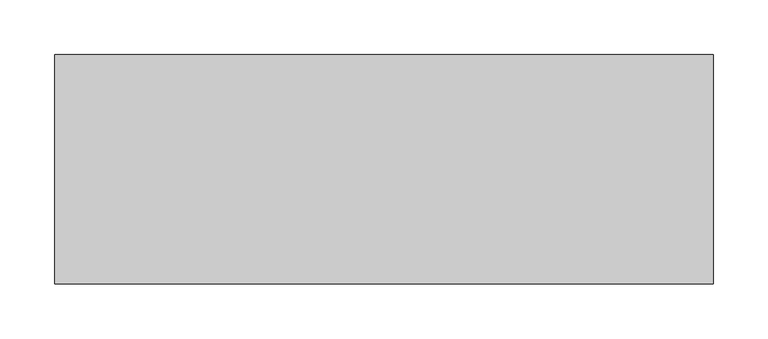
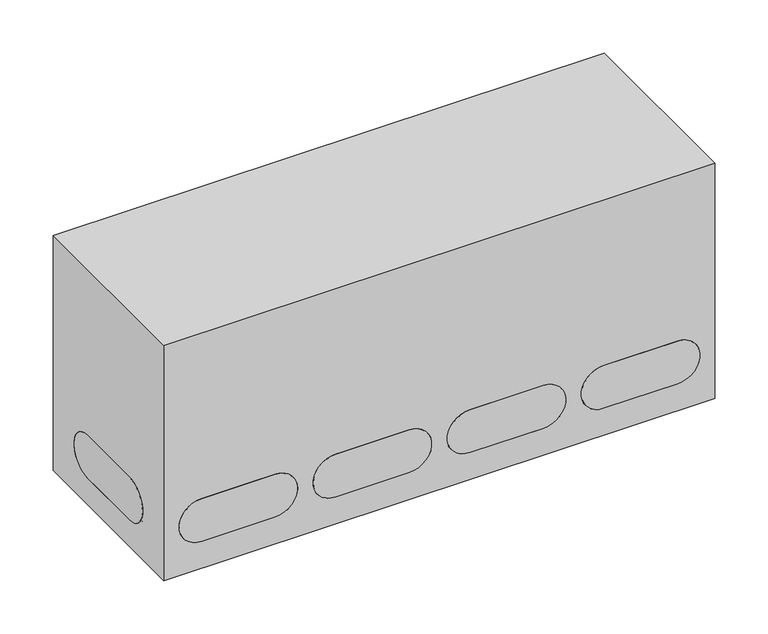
"""IFC4 building model written with IfcOpenShell, lengths in millimetres: duct fitting geometry, NLRS_57_DUF_UN_air distribution manifold oval #14_M&G : 350#14 - DN150 (H=270)."""

from ifc_helpers import new_model, si_unit, point, frame, frame_2d, origin, origin_with_axes, place, context, project, spatial, polyline, circle_curve, trimmed, segment, composite_curve, outline, extrude, source, transform, mapped, element, save
from ifc_brep_helpers import plane_surface, revolved_surface, advanced_brep


def duct_fitting_6cd177ab(model_context):
    return source(origin(), model_context, "Body", "SolidModel", [
        extrude(outline(composite_curve([segment(trimmed(circle_curve(frame_2d((-179.0, 40.0)), 24.5), [point((-179.0, 64.5))], [point((-179.0, 15.5))], False, "CARTESIAN"), True, "CONTINUOUS"), segment(polyline([(-179.0, 15.5), (-259.0, 15.5)]), True, "CONTINUOUS"), segment(trimmed(circle_curve(frame_2d((-259.0, 40.0)), 24.5), [point((-259.0, 15.5))], [point((-259.0, 64.5))], False, "CARTESIAN"), True, "CONTINUOUS"), segment(polyline([(-259.0, 64.5), (-179.0, 64.5)]), True, "CONTINUOUS")], self_intersect=False)), origin_with_axes(), (0.0, 0.0, 1.0), 5.0),
        extrude(outline(composite_curve([segment(trimmed(circle_curve(frame_2d((-179.0, -40.0)), 24.5), [point((-179.0, -15.5))], [point((-179.0, -64.5))], False, "CARTESIAN"), True, "CONTINUOUS"), segment(polyline([(-179.0, -64.5), (-259.0, -64.5)]), True, "CONTINUOUS"), segment(trimmed(circle_curve(frame_2d((-259.0, -40.0)), 24.5), [point((-259.0, -64.5))], [point((-259.0, -15.5))], False, "CARTESIAN"), True, "CONTINUOUS"), segment(polyline([(-259.0, -15.5), (-179.0, -15.5)]), True, "CONTINUOUS")], self_intersect=False)), origin_with_axes(), (0.0, 0.0, 1.0), 5.0),
        extrude(outline(composite_curve([segment(trimmed(circle_curve(frame_2d((-33.0, 40.0)), 24.5), [point((-33.0, 64.5))], [point((-33.0, 15.5))], False, "CARTESIAN"), True, "CONTINUOUS"), segment(polyline([(-33.0, 15.5), (-113.0, 15.5)]), True, "CONTINUOUS"), segment(trimmed(circle_curve(frame_2d((-113.0, 40.0)), 24.5), [point((-113.0, 15.5))], [point((-113.0, 64.5))], False, "CARTESIAN"), True, "CONTINUOUS"), segment(polyline([(-113.0, 64.5), (-33.0, 64.5)]), True, "CONTINUOUS")], self_intersect=False)), origin_with_axes(), (0.0, 0.0, 1.0), 5.0),
        extrude(outline(composite_curve([segment(trimmed(circle_curve(frame_2d((-33.0, -40.0)), 24.5), [point((-33.0, -15.5))], [point((-33.0, -64.5))], False, "CARTESIAN"), True, "CONTINUOUS"), segment(polyline([(-33.0, -64.5), (-113.0, -64.5)]), True, "CONTINUOUS"), segment(trimmed(circle_curve(frame_2d((-113.0, -40.0)), 24.5), [point((-113.0, -64.5))], [point((-113.0, -15.5))], False, "CARTESIAN"), True, "CONTINUOUS"), segment(polyline([(-113.0, -15.5), (-33.0, -15.5)]), True, "CONTINUOUS")], self_intersect=False)), origin_with_axes(), (0.0, 0.0, 1.0), 5.0),
        extrude(outline(composite_curve([segment(trimmed(circle_curve(frame_2d((113.0, 40.0)), 24.5), [point((113.0, 64.5))], [point((113.0, 15.5))], False, "CARTESIAN"), True, "CONTINUOUS"), segment(polyline([(113.0, 15.5), (33.0, 15.5)]), True, "CONTINUOUS"), segment(trimmed(circle_curve(frame_2d((33.0, 40.0)), 24.5), [point((33.0, 15.5))], [point((33.0, 64.5))], False, "CARTESIAN"), True, "CONTINUOUS"), segment(polyline([(33.0, 64.5), (113.0, 64.5)]), True, "CONTINUOUS")], self_intersect=False)), origin_with_axes(), (0.0, 0.0, 1.0), 5.0),
        extrude(outline(composite_curve([segment(trimmed(circle_curve(frame_2d((113.0, -40.0)), 24.5), [point((113.0, -15.5))], [point((113.0, -64.5))], False, "CARTESIAN"), True, "CONTINUOUS"), segment(polyline([(113.0, -64.5), (33.0, -64.5)]), True, "CONTINUOUS"), segment(trimmed(circle_curve(frame_2d((33.0, -40.0)), 24.5), [point((33.0, -64.5))], [point((33.0, -15.5))], False, "CARTESIAN"), True, "CONTINUOUS"), segment(polyline([(33.0, -15.5), (113.0, -15.5)]), True, "CONTINUOUS")], self_intersect=False)), origin_with_axes(), (0.0, 0.0, 1.0), 5.0),
        extrude(outline(composite_curve([segment(trimmed(circle_curve(frame_2d((259.0, 40.0)), 24.5), [point((259.0, 64.5))], [point((259.0, 15.5))], False, "CARTESIAN"), True, "CONTINUOUS"), segment(polyline([(259.0, 15.5), (179.0, 15.5)]), True, "CONTINUOUS"), segment(trimmed(circle_curve(frame_2d((179.0, 40.0)), 24.5), [point((179.0, 15.5))], [point((179.0, 64.5))], False, "CARTESIAN"), True, "CONTINUOUS"), segment(polyline([(179.0, 64.5), (259.0, 64.5)]), True, "CONTINUOUS")], self_intersect=False)), origin_with_axes(), (0.0, 0.0, 1.0), 5.0),
        extrude(outline(composite_curve([segment(trimmed(circle_curve(frame_2d((259.0, -40.0)), 24.5), [point((259.0, -15.5))], [point((259.0, -64.5))], False, "CARTESIAN"), True, "CONTINUOUS"), segment(polyline([(259.0, -64.5), (179.0, -64.5)]), True, "CONTINUOUS"), segment(trimmed(circle_curve(frame_2d((179.0, -40.0)), 24.5), [point((179.0, -64.5))], [point((179.0, -15.5))], False, "CARTESIAN"), True, "CONTINUOUS"), segment(polyline([(179.0, -15.5), (259.0, -15.5)]), True, "CONTINUOUS")], self_intersect=False)), origin_with_axes(), (0.0, 0.0, 1.0), 5.0),
        extrude(outline(composite_curve([segment(polyline([(-40.0, 80.0), (40.0, 80.0)]), True, "CONTINUOUS"), segment(trimmed(circle_curve(frame_2d((40.0, 55.5)), 24.5), [point((40.0, 80.0))], [point((40.0, 31.0))], False, "CARTESIAN"), True, "CONTINUOUS"), segment(polyline([(40.0, 31.0), (-40.0, 31.0)]), True, "CONTINUOUS"), segment(trimmed(circle_curve(frame_2d((-40.0, 55.5)), 24.5), [point((-40.0, 31.0))], [point((-40.0, 80.0))], False, "CARTESIAN"), True, "CONTINUOUS")], self_intersect=False)), frame((-300.0, 0.0, 0.0), z_axis=(1.0, 0.0, 0.0), x_axis=(0.0, 1.0, 0.0)), (0.0, 0.0, 1.0), 5.0),
        extrude(outline(composite_curve([segment(polyline([(80.0, -179.0), (80.0, -259.0)]), True, "CONTINUOUS"), segment(trimmed(circle_curve(frame_2d((55.5, -259.0)), 24.5), [point((80.0, -259.0))], [point((31.0, -259.0))], False, "CARTESIAN"), True, "CONTINUOUS"), segment(polyline([(31.0, -259.0), (31.0, -179.0)]), True, "CONTINUOUS"), segment(trimmed(circle_curve(frame_2d((55.5, -179.0)), 24.5), [point((31.0, -179.0))], [point((80.0, -179.0))], False, "CARTESIAN"), True, "CONTINUOUS")], self_intersect=False)), frame((0.0, -104.5, 0.0), z_axis=(0.0, 1.0, 0.0), x_axis=(0.0, 0.0, 1.0)), (0.0, 0.0, 1.0), 5.0),
        extrude(outline(composite_curve([segment(polyline([(80.0, -33.0), (80.0, -113.0)]), True, "CONTINUOUS"), segment(trimmed(circle_curve(frame_2d((55.5, -113.0)), 24.5), [point((80.0, -113.0))], [point((31.0, -113.0))], False, "CARTESIAN"), True, "CONTINUOUS"), segment(polyline([(31.0, -113.0), (31.0, -33.0)]), True, "CONTINUOUS"), segment(trimmed(circle_curve(frame_2d((55.5, -33.0)), 24.5), [point((31.0, -33.0))], [point((80.0, -33.0))], False, "CARTESIAN"), True, "CONTINUOUS")], self_intersect=False)), frame((0.0, -104.5, 0.0), z_axis=(0.0, 1.0, 0.0), x_axis=(0.0, 0.0, 1.0)), (0.0, 0.0, 1.0), 5.0),
        extrude(outline(composite_curve([segment(polyline([(80.0, 113.0), (80.0, 33.0)]), True, "CONTINUOUS"), segment(trimmed(circle_curve(frame_2d((55.5, 33.0)), 24.5), [point((80.0, 33.0))], [point((31.0, 33.0))], False, "CARTESIAN"), True, "CONTINUOUS"), segment(polyline([(31.0, 33.0), (31.0, 113.0)]), True, "CONTINUOUS"), segment(trimmed(circle_curve(frame_2d((55.5, 113.0)), 24.5), [point((31.0, 113.0))], [point((80.0, 113.0))], False, "CARTESIAN"), True, "CONTINUOUS")], self_intersect=False)), frame((0.0, -104.5, 0.0), z_axis=(0.0, 1.0, 0.0), x_axis=(0.0, 0.0, 1.0)), (0.0, 0.0, 1.0), 5.0),
        extrude(outline(composite_curve([segment(polyline([(80.0, 259.0), (80.0, 179.0)]), True, "CONTINUOUS"), segment(trimmed(circle_curve(frame_2d((55.5, 179.0)), 24.5), [point((80.0, 179.0))], [point((31.0, 179.0))], False, "CARTESIAN"), True, "CONTINUOUS"), segment(polyline([(31.0, 179.0), (31.0, 259.0)]), True, "CONTINUOUS"), segment(trimmed(circle_curve(frame_2d((55.5, 259.0)), 24.5), [point((31.0, 259.0))], [point((80.0, 259.0))], False, "CARTESIAN"), True, "CONTINUOUS")], self_intersect=False)), frame((0.0, -104.5, 0.0), z_axis=(0.0, 1.0, 0.0), x_axis=(0.0, 0.0, 1.0)), (0.0, 0.0, 1.0), 5.0),
        extrude(outline(composite_curve([segment(polyline([(-40.0, 80.0), (40.0, 80.0)]), True, "CONTINUOUS"), segment(trimmed(circle_curve(frame_2d((40.0, 55.5)), 24.5), [point((40.0, 80.0))], [point((40.0, 31.0))], False, "CARTESIAN"), True, "CONTINUOUS"), segment(polyline([(40.0, 31.0), (-40.0, 31.0)]), True, "CONTINUOUS"), segment(trimmed(circle_curve(frame_2d((-40.0, 55.5)), 24.5), [point((-40.0, 31.0))], [point((-40.0, 80.0))], False, "CARTESIAN"), True, "CONTINUOUS")], self_intersect=False)), frame((295.0, 0.0, 0.0), z_axis=(1.0, 0.0, 0.0), x_axis=(0.0, 1.0, 0.0)), (0.0, 0.0, 1.0), 5.0),
        advanced_brep(
        [(300.0, 104.5, 271.0), (-300.0, 104.5, 271.0), (-300.0, -104.5, 271.0), (300.0, -104.5, 271.0), (300.0, 104.5, 0.0), (300.0, -104.5, 0.0), (-300.0, -104.5, 0.0), (-300.0, 104.5, 0.0), (-179.0, 64.5, 0.0), (-259.0, 64.5, 0.0), (-259.0, 15.5, 0.0), (-179.0, 15.5, 0.0), (-179.0, -15.5, 0.0), (-259.0, -15.5, 0.0), (-259.0, -64.5, 0.0), (-179.0, -64.5, 0.0), (-33.0, 64.5, 0.0), (-113.0, 64.5, 0.0), (-113.0, 15.5, 0.0), (-33.0, 15.5, 0.0), (-33.0, -15.5, 0.0), (-113.0, -15.5, 0.0), (-113.0, -64.5, 0.0), (-33.0, -64.5, 0.0), (113.0, 64.5, 0.0), (33.0, 64.5, 0.0), (33.0, 15.5, 0.0), (113.0, 15.5, 0.0), (113.0, -15.5, 0.0), (33.0, -15.5, 0.0), (33.0, -64.5, 0.0), (113.0, -64.5, 0.0), (259.0, 64.5, 0.0), (179.0, 64.5, 0.0), (179.0, 15.5, 0.0), (259.0, 15.5, 0.0), (259.0, -15.5, 0.0), (179.0, -15.5, 0.0), (179.0, -64.5, 0.0), (259.0, -64.5, 0.0), (-300.0, 40.0, 80.0), (-300.0, -40.0, 80.0), (-300.0, -40.0, 31.0), (-300.0, 40.0, 31.0), (-259.0, -104.5, 80.0), (-179.0, -104.5, 80.0), (-179.0, -104.5, 31.0), (-259.0, -104.5, 31.0), (-113.0, -104.5, 80.0), (-33.0, -104.5, 80.0), (-33.0, -104.5, 31.0), (-113.0, -104.5, 31.0), (33.0, -104.5, 80.0), (113.0, -104.5, 80.0), (113.0, -104.5, 31.0), (33.0, -104.5, 31.0), (179.0, -104.5, 80.0), (259.0, -104.5, 80.0), (259.0, -104.5, 31.0), (179.0, -104.5, 31.0), (300.0, -40.0, 80.0), (300.0, 40.0, 80.0), (300.0, 40.0, 31.0), (300.0, -40.0, 31.0), (-179.0, 64.5, 5.0), (-179.0, 15.5, 5.0), (-259.0, 15.5, 5.0), (-259.0, 64.5, 5.0), (-179.0, -15.5, 5.0), (-179.0, -64.5, 5.0), (-259.0, -64.5, 5.0), (-259.0, -15.5, 5.0), (-33.0, 64.5, 5.0), (-33.0, 15.5, 5.0), (-113.0, 15.5, 5.0), (-113.0, 64.5, 5.0), (-33.0, -15.5, 5.0), (-33.0, -64.5, 5.0), (-113.0, -64.5, 5.0), (-113.0, -15.5, 5.0), (113.0, 64.5, 5.0), (113.0, 15.5, 5.0), (33.0, 15.5, 5.0), (33.0, 64.5, 5.0), (113.0, -15.5, 5.0), (113.0, -64.5, 5.0), (33.0, -64.5, 5.0), (33.0, -15.5, 5.0), (259.0, 64.5, 5.0), (259.0, 15.5, 5.0), (179.0, 15.5, 5.0), (179.0, 64.5, 5.0), (259.0, -15.5, 5.0), (259.0, -64.5, 5.0), (179.0, -64.5, 5.0), (179.0, -15.5, 5.0), (-179.0, -99.5, 80.0), (-259.0, -99.5, 80.0), (-259.0, -99.5, 31.0), (-179.0, -99.5, 31.0), (-33.0, -99.5, 80.0), (-113.0, -99.5, 80.0), (-113.0, -99.5, 31.0), (-33.0, -99.5, 31.0), (113.0, -99.5, 80.0), (33.0, -99.5, 80.0), (33.0, -99.5, 31.0), (113.0, -99.5, 31.0), (259.0, -99.5, 80.0), (179.0, -99.5, 80.0), (179.0, -99.5, 31.0), (259.0, -99.5, 31.0), (294.0, -40.0, 80.0), (294.0, 40.0, 80.0), (294.0, 40.0, 31.0), (294.0, -40.0, 31.0), (-294.0, -40.0, 80.0), (-294.0, 40.0, 80.0), (-294.0, 40.0, 31.0), (-294.0, -40.0, 31.0)],
        [
            (0, 1),
            (1, 2),
            (2, 3),
            (3, 0),
            (4, 5),
            (5, 6),
            (6, 7),
            (7, 4),
            (8, 9),
            (9, 10, circle_curve(frame((-259.0, 40.0, 0.0), z_axis=(0.0, 0.0, 1.0), x_axis=(1.0, 0.0, 0.0)), 24.5)),
            (10, 11),
            (11, 8, circle_curve(frame((-179.0, 40.0, 0.0), z_axis=(0.0, 0.0, 1.0), x_axis=(1.0, 0.0, 0.0)), 24.5)),
            (12, 13),
            (13, 14, circle_curve(frame((-259.0, -40.0, 0.0), z_axis=(0.0, 0.0, 1.0), x_axis=(1.0, 0.0, 0.0)), 24.5)),
            (14, 15),
            (15, 12, circle_curve(frame((-179.0, -40.0, 0.0), z_axis=(0.0, 0.0, 1.0), x_axis=(1.0, 0.0, 0.0)), 24.5)),
            (16, 17),
            (17, 18, circle_curve(frame((-113.0, 40.0, 0.0), z_axis=(0.0, 0.0, 1.0), x_axis=(1.0, 0.0, 0.0)), 24.5)),
            (18, 19),
            (19, 16, circle_curve(frame((-33.0, 40.0, 0.0), z_axis=(0.0, 0.0, 1.0), x_axis=(1.0, 0.0, 0.0)), 24.5)),
            (20, 21),
            (21, 22, circle_curve(frame((-113.0, -40.0, 0.0), z_axis=(0.0, 0.0, 1.0), x_axis=(1.0, 0.0, 0.0)), 24.5)),
            (22, 23),
            (23, 20, circle_curve(frame((-33.0, -40.0, 0.0), z_axis=(0.0, 0.0, 1.0), x_axis=(1.0, 0.0, 0.0)), 24.5)),
            (24, 25),
            (25, 26, circle_curve(frame((33.0, 40.0, 0.0), z_axis=(0.0, 0.0, 1.0), x_axis=(1.0, 0.0, 0.0)), 24.5)),
            (26, 27),
            (27, 24, circle_curve(frame((113.0, 40.0, 0.0), z_axis=(0.0, 0.0, 1.0), x_axis=(1.0, 0.0, 0.0)), 24.5)),
            (28, 29),
            (29, 30, circle_curve(frame((33.0, -40.0, 0.0), z_axis=(0.0, 0.0, 1.0), x_axis=(1.0, 0.0, 0.0)), 24.5)),
            (30, 31),
            (31, 28, circle_curve(frame((113.0, -40.0, 0.0), z_axis=(0.0, 0.0, 1.0), x_axis=(1.0, 0.0, 0.0)), 24.5)),
            (32, 33),
            (33, 34, circle_curve(frame((179.0, 40.0, 0.0), z_axis=(0.0, 0.0, 1.0), x_axis=(1.0, 0.0, 0.0)), 24.5)),
            (34, 35),
            (35, 32, circle_curve(frame((259.0, 40.0, 0.0), z_axis=(0.0, 0.0, 1.0), x_axis=(1.0, 0.0, 0.0)), 24.5)),
            (36, 37),
            (37, 38, circle_curve(frame((179.0, -40.0, 0.0), z_axis=(0.0, 0.0, 1.0), x_axis=(1.0, 0.0, 0.0)), 24.5)),
            (38, 39),
            (39, 36, circle_curve(frame((259.0, -40.0, 0.0), z_axis=(0.0, 0.0, 1.0), x_axis=(1.0, 0.0, 0.0)), 24.5)),
            (0, 4),
            (7, 1),
            (6, 2),
            (40, 41),
            (41, 42, circle_curve(frame((-300.0, -40.0, 55.5), z_axis=(1.0, 0.0, 0.0), x_axis=(0.0, 1.0, 0.0)), 24.5)),
            (42, 43),
            (43, 40, circle_curve(frame((-300.0, 40.0, 55.5), z_axis=(1.0, 0.0, 0.0), x_axis=(0.0, 1.0, 0.0)), 24.5)),
            (5, 3),
            (44, 45),
            (45, 46, circle_curve(frame((-179.0, -104.5, 55.5), z_axis=(0.0, 1.0, 0.0), x_axis=(-1.0, 0.0, 0.0)), 24.5)),
            (46, 47),
            (47, 44, circle_curve(frame((-259.0, -104.5, 55.5), z_axis=(0.0, 1.0, 0.0), x_axis=(-1.0, 0.0, 0.0)), 24.5)),
            (48, 49),
            (49, 50, circle_curve(frame((-33.0, -104.5, 55.5), z_axis=(0.0, 1.0, 0.0), x_axis=(-1.0, 0.0, 0.0)), 24.5)),
            (50, 51),
            (51, 48, circle_curve(frame((-113.0, -104.5, 55.5), z_axis=(0.0, 1.0, 0.0), x_axis=(-1.0, 0.0, 0.0)), 24.5)),
            (52, 53),
            (53, 54, circle_curve(frame((113.0, -104.5, 55.5), z_axis=(0.0, 1.0, 0.0), x_axis=(-1.0, 0.0, 0.0)), 24.5)),
            (54, 55),
            (55, 52, circle_curve(frame((33.0, -104.5, 55.5), z_axis=(0.0, 1.0, 0.0), x_axis=(-1.0, 0.0, 0.0)), 24.5)),
            (56, 57),
            (57, 58, circle_curve(frame((259.0, -104.5, 55.5), z_axis=(0.0, 1.0, 0.0), x_axis=(-1.0, 0.0, 0.0)), 24.5)),
            (58, 59),
            (59, 56, circle_curve(frame((179.0, -104.5, 55.5), z_axis=(0.0, 1.0, 0.0), x_axis=(-1.0, 0.0, 0.0)), 24.5)),
            (60, 61),
            (61, 62, circle_curve(frame((300.0, 40.0, 55.5), z_axis=(-1.0, 0.0, 0.0), x_axis=(0.0, -1.0, 0.0)), 24.5)),
            (62, 63),
            (63, 60, circle_curve(frame((300.0, -40.0, 55.5), z_axis=(-1.0, 0.0, 0.0), x_axis=(0.0, -1.0, 0.0)), 24.5)),
            (64, 65, circle_curve(frame((-179.0, 40.0, 5.0), z_axis=(0.0, 0.0, -1.0), x_axis=(1.0, 0.0, 0.0)), 24.5)),
            (65, 66),
            (66, 67, circle_curve(frame((-259.0, 40.0, 5.0), z_axis=(0.0, 0.0, -1.0), x_axis=(1.0, 0.0, 0.0)), 24.5)),
            (67, 64),
            (68, 69, circle_curve(frame((-179.0, -40.0, 5.0), z_axis=(0.0, 0.0, -1.0), x_axis=(1.0, 0.0, 0.0)), 24.5)),
            (69, 70),
            (70, 71, circle_curve(frame((-259.0, -40.0, 5.0), z_axis=(0.0, 0.0, -1.0), x_axis=(1.0, 0.0, 0.0)), 24.5)),
            (71, 68),
            (72, 73, circle_curve(frame((-33.0, 40.0, 5.0), z_axis=(0.0, 0.0, -1.0), x_axis=(1.0, 0.0, 0.0)), 24.5)),
            (73, 74),
            (74, 75, circle_curve(frame((-113.0, 40.0, 5.0), z_axis=(0.0, 0.0, -1.0), x_axis=(1.0, 0.0, 0.0)), 24.5)),
            (75, 72),
            (76, 77, circle_curve(frame((-33.0, -40.0, 5.0), z_axis=(0.0, 0.0, -1.0), x_axis=(1.0, 0.0, 0.0)), 24.5)),
            (77, 78),
            (78, 79, circle_curve(frame((-113.0, -40.0, 5.0), z_axis=(0.0, 0.0, -1.0), x_axis=(1.0, 0.0, 0.0)), 24.5)),
            (79, 76),
            (80, 81, circle_curve(frame((113.0, 40.0, 5.0), z_axis=(0.0, 0.0, -1.0), x_axis=(1.0, 0.0, 0.0)), 24.5)),
            (81, 82),
            (82, 83, circle_curve(frame((33.0, 40.0, 5.0), z_axis=(0.0, 0.0, -1.0), x_axis=(1.0, 0.0, 0.0)), 24.5)),
            (83, 80),
            (84, 85, circle_curve(frame((113.0, -40.0, 5.0), z_axis=(0.0, 0.0, -1.0), x_axis=(1.0, 0.0, 0.0)), 24.5)),
            (85, 86),
            (86, 87, circle_curve(frame((33.0, -40.0, 5.0), z_axis=(0.0, 0.0, -1.0), x_axis=(1.0, 0.0, 0.0)), 24.5)),
            (87, 84),
            (88, 89, circle_curve(frame((259.0, 40.0, 5.0), z_axis=(0.0, 0.0, -1.0), x_axis=(1.0, 0.0, 0.0)), 24.5)),
            (89, 90),
            (90, 91, circle_curve(frame((179.0, 40.0, 5.0), z_axis=(0.0, 0.0, -1.0), x_axis=(1.0, 0.0, 0.0)), 24.5)),
            (91, 88),
            (92, 93, circle_curve(frame((259.0, -40.0, 5.0), z_axis=(0.0, 0.0, -1.0), x_axis=(1.0, 0.0, 0.0)), 24.5)),
            (93, 94),
            (94, 95, circle_curve(frame((179.0, -40.0, 5.0), z_axis=(0.0, 0.0, -1.0), x_axis=(1.0, 0.0, 0.0)), 24.5)),
            (95, 92),
            (67, 9),
            (8, 64),
            (66, 10),
            (65, 11),
            (71, 13),
            (12, 68),
            (70, 14),
            (69, 15),
            (75, 17),
            (16, 72),
            (74, 18),
            (73, 19),
            (79, 21),
            (20, 76),
            (78, 22),
            (77, 23),
            (83, 25),
            (24, 80),
            (82, 26),
            (81, 27),
            (87, 29),
            (28, 84),
            (86, 30),
            (85, 31),
            (91, 33),
            (32, 88),
            (90, 34),
            (89, 35),
            (95, 37),
            (36, 92),
            (94, 38),
            (93, 39),
            (96, 97),
            (97, 98, circle_curve(frame((-259.0, -99.5, 55.5), z_axis=(0.0, -1.0, 0.0), x_axis=(-1.0, 0.0, 0.0)), 24.5)),
            (98, 99),
            (99, 96, circle_curve(frame((-179.0, -99.5, 55.5), z_axis=(0.0, -1.0, 0.0), x_axis=(-1.0, 0.0, 0.0)), 24.5)),
            (100, 101),
            (101, 102, circle_curve(frame((-113.0, -99.5, 55.5), z_axis=(0.0, -1.0, 0.0), x_axis=(-1.0, 0.0, 0.0)), 24.5)),
            (102, 103),
            (103, 100, circle_curve(frame((-33.0, -99.5, 55.5), z_axis=(0.0, -1.0, 0.0), x_axis=(-1.0, 0.0, 0.0)), 24.5)),
            (104, 105),
            (105, 106, circle_curve(frame((33.0, -99.5, 55.5), z_axis=(0.0, -1.0, 0.0), x_axis=(-1.0, 0.0, 0.0)), 24.5)),
            (106, 107),
            (107, 104, circle_curve(frame((113.0, -99.5, 55.5), z_axis=(0.0, -1.0, 0.0), x_axis=(-1.0, 0.0, 0.0)), 24.5)),
            (108, 109),
            (109, 110, circle_curve(frame((179.0, -99.5, 55.5), z_axis=(0.0, -1.0, 0.0), x_axis=(-1.0, 0.0, 0.0)), 24.5)),
            (110, 111),
            (111, 108, circle_curve(frame((259.0, -99.5, 55.5), z_axis=(0.0, -1.0, 0.0), x_axis=(-1.0, 0.0, 0.0)), 24.5)),
            (96, 45),
            (44, 97),
            (47, 98),
            (46, 99),
            (100, 49),
            (48, 101),
            (51, 102),
            (50, 103),
            (104, 53),
            (52, 105),
            (55, 106),
            (54, 107),
            (108, 57),
            (56, 109),
            (59, 110),
            (58, 111),
            (112, 113),
            (113, 61),
            (60, 112),
            (113, 114, circle_curve(frame((294.0, 40.0, 55.5), z_axis=(-1.0, 0.0, 0.0), x_axis=(0.0, -1.0, 0.0)), 24.5)),
            (114, 62),
            (114, 115),
            (115, 63),
            (115, 112, circle_curve(frame((294.0, -40.0, 55.5), z_axis=(-1.0, 0.0, 0.0), x_axis=(0.0, -1.0, 0.0)), 24.5)),
            (116, 117),
            (117, 118, circle_curve(frame((-294.0, 40.0, 55.5), z_axis=(-1.0, 0.0, 0.0), x_axis=(0.0, 1.0, 0.0)), 24.5)),
            (118, 119),
            (119, 116, circle_curve(frame((-294.0, -40.0, 55.5), z_axis=(-1.0, 0.0, 0.0), x_axis=(0.0, 1.0, 0.0)), 24.5)),
            (116, 41),
            (40, 117),
            (43, 118),
            (42, 119),
        ],
        [
            plane_surface(frame((-300.0, 104.5, 271.0), z_axis=(0.0, 0.0, 1.0), x_axis=(-1.0, 0.0, 0.0))),
            plane_surface(frame((-300.0, 104.5, 0.0), z_axis=(0.0, 0.0, -1.0), x_axis=(1.0, 0.0, 0.0))),
            plane_surface(frame((300.0, 104.5, 271.0), z_axis=(0.0, 1.0, 0.0), x_axis=(0.0, 0.0, -1.0))),
            plane_surface(frame((-300.0, 104.5, 271.0), z_axis=(-1.0, 0.0, 0.0), x_axis=(0.0, 0.0, -1.0))),
            plane_surface(frame((-300.0, -104.5, 271.0), z_axis=(0.0, -1.0, 0.0), x_axis=(0.0, 0.0, -1.0))),
            plane_surface(frame((300.0, -104.5, 271.0), z_axis=(1.0, 0.0, 0.0), x_axis=(0.0, 0.0, -1.0))),
            plane_surface(frame((-259.0, 64.5, 5.0), z_axis=(0.0, 0.0, -1.0), x_axis=(-1.0, 0.0, 0.0))),
            plane_surface(frame((-179.0, 64.5, 5.0), z_axis=(0.0, -1.0, 0.0), x_axis=(0.0, 0.0, -1.0))),
            revolved_surface(polyline([(-234.5, 40.0, 5.0), (-234.5, 40.0, 0.0)]), (-259.0, 40.0, 0.0), (0.0, 0.0, 1.0)),
            plane_surface(frame((-259.0, 15.5, 5.0), z_axis=(0.0, 1.0, 0.0), x_axis=(0.0, 0.0, -1.0))),
            revolved_surface(polyline([(-154.5, 40.0, 5.0), (-154.5, 40.0, 0.0)]), (-179.0, 40.0, 0.0), (0.0, 0.0, 1.0)),
            plane_surface(frame((-179.0, -15.5, 5.0), z_axis=(0.0, -1.0, 0.0), x_axis=(0.0, 0.0, -1.0))),
            revolved_surface(polyline([(-234.5, -40.0, 5.0), (-234.5, -40.0, 0.0)]), (-259.0, -40.0, 0.0), (0.0, 0.0, 1.0)),
            plane_surface(frame((-259.0, -64.5, 5.0), z_axis=(0.0, 1.0, 0.0), x_axis=(0.0, 0.0, -1.0))),
            revolved_surface(polyline([(-154.5, -40.0, 5.0), (-154.5, -40.0, 0.0)]), (-179.0, -40.0, 0.0), (0.0, 0.0, 1.0)),
            plane_surface(frame((-33.0, 64.5, 5.0), z_axis=(0.0, -1.0, 0.0), x_axis=(0.0, 0.0, -1.0))),
            revolved_surface(polyline([(-88.5, 40.0, 5.0), (-88.5, 40.0, 0.0)]), (-113.0, 40.0, 0.0), (0.0, 0.0, 1.0)),
            plane_surface(frame((-113.0, 15.5, 5.0), z_axis=(0.0, 1.0, 0.0), x_axis=(0.0, 0.0, -1.0))),
            revolved_surface(polyline([(-8.5, 40.0, 5.0), (-8.5, 40.0, 0.0)]), (-33.0, 40.0, 0.0), (0.0, 0.0, 1.0)),
            plane_surface(frame((-33.0, -15.5, 5.0), z_axis=(0.0, -1.0, 0.0), x_axis=(0.0, 0.0, -1.0))),
            revolved_surface(polyline([(-88.5, -40.0, 5.0), (-88.5, -40.0, 0.0)]), (-113.0, -40.0, 0.0), (0.0, 0.0, 1.0)),
            plane_surface(frame((-113.0, -64.5, 5.0), z_axis=(0.0, 1.0, 0.0), x_axis=(0.0, 0.0, -1.0))),
            revolved_surface(polyline([(-8.5, -40.0, 5.0), (-8.5, -40.0, 0.0)]), (-33.0, -40.0, 0.0), (0.0, 0.0, 1.0)),
            plane_surface(frame((113.0, 64.5, 5.0), z_axis=(0.0, -1.0, 0.0), x_axis=(0.0, 0.0, -1.0))),
            revolved_surface(polyline([(57.5, 40.0, 5.0), (57.5, 40.0, 0.0)]), (33.0, 40.0, 0.0), (0.0, 0.0, 1.0)),
            plane_surface(frame((33.0, 15.5, 5.0), z_axis=(0.0, 1.0, 0.0), x_axis=(0.0, 0.0, -1.0))),
            revolved_surface(polyline([(137.5, 40.0, 5.0), (137.5, 40.0, 0.0)]), (113.0, 40.0, 0.0), (0.0, 0.0, 1.0)),
            plane_surface(frame((113.0, -15.5, 5.0), z_axis=(0.0, -1.0, 0.0), x_axis=(0.0, 0.0, -1.0))),
            revolved_surface(polyline([(57.5, -40.0, 5.0), (57.5, -40.0, 0.0)]), (33.0, -40.0, 0.0), (0.0, 0.0, 1.0)),
            plane_surface(frame((33.0, -64.5, 5.0), z_axis=(0.0, 1.0, 0.0), x_axis=(0.0, 0.0, -1.0))),
            revolved_surface(polyline([(137.5, -40.0, 5.0), (137.5, -40.0, 0.0)]), (113.0, -40.0, 0.0), (0.0, 0.0, 1.0)),
            plane_surface(frame((259.0, 64.5, 5.0), z_axis=(0.0, -1.0, 0.0), x_axis=(0.0, 0.0, -1.0))),
            revolved_surface(polyline([(203.5, 40.0, 5.0), (203.5, 40.0, 0.0)]), (179.0, 40.0, 0.0), (0.0, 0.0, 1.0)),
            plane_surface(frame((179.0, 15.5, 5.0), z_axis=(0.0, 1.0, 0.0), x_axis=(0.0, 0.0, -1.0))),
            revolved_surface(polyline([(283.5, 40.0, 5.0), (283.5, 40.0, 0.0)]), (259.0, 40.0, 0.0), (0.0, 0.0, 1.0)),
            plane_surface(frame((259.0, -15.5, 5.0), z_axis=(0.0, -1.0, 0.0), x_axis=(0.0, 0.0, -1.0))),
            revolved_surface(polyline([(203.5, -40.0, 5.0), (203.5, -40.0, 0.0)]), (179.0, -40.0, 0.0), (0.0, 0.0, 1.0)),
            plane_surface(frame((179.0, -64.5, 5.0), z_axis=(0.0, 1.0, 0.0), x_axis=(0.0, 0.0, -1.0))),
            revolved_surface(polyline([(283.5, -40.0, 5.0), (283.5, -40.0, 0.0)]), (259.0, -40.0, 0.0), (0.0, 0.0, 1.0)),
            plane_surface(frame((-203.5, -99.5, 55.5), z_axis=(0.0, -1.0, 0.0), x_axis=(0.0, 0.0, 1.0))),
            plane_surface(frame((-259.0, -99.5, 80.0), z_axis=(0.0, 0.0, -1.0), x_axis=(0.0, -1.0, 0.0))),
            revolved_surface(polyline([(-283.5, -99.5, 55.5), (-283.5, -104.5, 55.5)]), (-259.0, -104.5, 55.5), (0.0, 1.0, 0.0)),
            plane_surface(frame((-179.0, -99.5, 31.0), z_axis=(0.0, 0.0, 1.0), x_axis=(0.0, -1.0, 0.0))),
            revolved_surface(polyline([(-203.5, -99.5, 55.5), (-203.5, -104.5, 55.5)]), (-179.0, -104.5, 55.5), (0.0, 1.0, 0.0)),
            plane_surface(frame((-113.0, -99.5, 80.0), z_axis=(0.0, 0.0, -1.0), x_axis=(0.0, -1.0, 0.0))),
            revolved_surface(polyline([(-137.5, -99.5, 55.5), (-137.5, -104.5, 55.5)]), (-113.0, -104.5, 55.5), (0.0, 1.0, 0.0)),
            plane_surface(frame((-33.0, -99.5, 31.0), z_axis=(0.0, 0.0, 1.0), x_axis=(0.0, -1.0, 0.0))),
            revolved_surface(polyline([(-57.5, -99.5, 55.5), (-57.5, -104.5, 55.5)]), (-33.0, -104.5, 55.5), (0.0, 1.0, 0.0)),
            plane_surface(frame((33.0, -99.5, 80.0), z_axis=(0.0, 0.0, -1.0), x_axis=(0.0, -1.0, 0.0))),
            revolved_surface(polyline([(8.5, -99.5, 55.5), (8.5, -104.5, 55.5)]), (33.0, -104.5, 55.5), (0.0, 1.0, 0.0)),
            plane_surface(frame((113.0, -99.5, 31.0), z_axis=(0.0, 0.0, 1.0), x_axis=(0.0, -1.0, 0.0))),
            revolved_surface(polyline([(88.5, -99.5, 55.5), (88.5, -104.5, 55.5)]), (113.0, -104.5, 55.5), (0.0, 1.0, 0.0)),
            plane_surface(frame((179.0, -99.5, 80.0), z_axis=(0.0, 0.0, -1.0), x_axis=(0.0, -1.0, 0.0))),
            revolved_surface(polyline([(154.5, -99.5, 55.5), (154.5, -104.5, 55.5)]), (179.0, -104.5, 55.5), (0.0, 1.0, 0.0)),
            plane_surface(frame((259.0, -99.5, 31.0), z_axis=(0.0, 0.0, 1.0), x_axis=(0.0, -1.0, 0.0))),
            revolved_surface(polyline([(234.5, -99.5, 55.5), (234.5, -104.5, 55.5)]), (259.0, -104.5, 55.5), (0.0, 1.0, 0.0)),
            plane_surface(frame((294.0, -40.0, 80.0), z_axis=(0.0, 0.0, -1.0), x_axis=(1.0, 0.0, 0.0))),
            revolved_surface(polyline([(294.0, 15.5, 55.5), (300.0, 15.5, 55.5)]), (300.0, 40.0, 55.5), (-1.0, 0.0, 0.0)),
            plane_surface(frame((294.0, 40.0, 31.0), z_axis=(0.0, 0.0, 1.0), x_axis=(1.0, 0.0, 0.0))),
            revolved_surface(polyline([(294.0, -64.5, 55.5), (300.0, -64.5, 55.5)]), (300.0, -40.0, 55.5), (-1.0, 0.0, 0.0)),
            plane_surface(frame((294.0, 40.0, 80.0), z_axis=(1.0, 0.0, 0.0), x_axis=(0.0, 1.0, 0.0))),
            plane_surface(frame((-294.0, -15.5, 55.5), z_axis=(-1.0, 0.0, 0.0), x_axis=(0.0, 0.0, 1.0))),
            plane_surface(frame((-294.0, 40.0, 80.0), z_axis=(0.0, 0.0, -1.0), x_axis=(-1.0, 0.0, 0.0))),
            revolved_surface(polyline([(-294.0, 64.5, 55.5), (-300.0, 64.5, 55.5)]), (-300.0, 40.0, 55.5), (1.0, 0.0, 0.0)),
            plane_surface(frame((-294.0, -40.0, 31.0), z_axis=(0.0, 0.0, 1.0), x_axis=(-1.0, 0.0, 0.0))),
            revolved_surface(polyline([(-294.0, -15.5, 55.5), (-300.0, -15.5, 55.5)]), (-300.0, -40.0, 55.5), (1.0, 0.0, 0.0)),
        ],
        [
            (0, [[1, 2, 3, 4]]),
            (1, [[5, 6, 7, 8], [9, 10, 11, 12], [13, 14, 15, 16], [17, 18, 19, 20], [21, 22, 23, 24], [25, 26, 27, 28], [29, 30, 31, 32], [33, 34, 35, 36], [37, 38, 39, 40]]),
            (2, [[-1, 41, -8, 42]]),
            (3, [[-2, -42, -7, 43], [44, 45, 46, 47]]),
            (4, [[-3, -43, -6, 48], [49, 50, 51, 52], [53, 54, 55, 56], [57, 58, 59, 60], [61, 62, 63, 64]]),
            (5, [[-4, -48, -5, -41], [65, 66, 67, 68]]),
            (6, [[69, 70, 71, 72]]),
            (6, [[73, 74, 75, 76]]),
            (6, [[77, 78, 79, 80]]),
            (6, [[81, 82, 83, 84]]),
            (6, [[85, 86, 87, 88]]),
            (6, [[89, 90, 91, 92]]),
            (6, [[93, 94, 95, 96]]),
            (6, [[97, 98, 99, 100]]),
            (7, [[-72, 101, -9, 102]]),
            (8, [[-71, 103, -10, -101]]),
            (9, [[-70, 104, -11, -103]]),
            (10, [[-69, -102, -12, -104]]),
            (11, [[-76, 105, -13, 106]]),
            (12, [[-75, 107, -14, -105]]),
            (13, [[-74, 108, -15, -107]]),
            (14, [[-73, -106, -16, -108]]),
            (15, [[-80, 109, -17, 110]]),
            (16, [[-79, 111, -18, -109]]),
            (17, [[-78, 112, -19, -111]]),
            (18, [[-77, -110, -20, -112]]),
            (19, [[-84, 113, -21, 114]]),
            (20, [[-83, 115, -22, -113]]),
            (21, [[-82, 116, -23, -115]]),
            (22, [[-81, -114, -24, -116]]),
            (23, [[-88, 117, -25, 118]]),
            (24, [[-87, 119, -26, -117]]),
            (25, [[-86, 120, -27, -119]]),
            (26, [[-85, -118, -28, -120]]),
            (27, [[-92, 121, -29, 122]]),
            (28, [[-91, 123, -30, -121]]),
            (29, [[-90, 124, -31, -123]]),
            (30, [[-89, -122, -32, -124]]),
            (31, [[-96, 125, -33, 126]]),
            (32, [[-95, 127, -34, -125]]),
            (33, [[-94, 128, -35, -127]]),
            (34, [[-93, -126, -36, -128]]),
            (35, [[-100, 129, -37, 130]]),
            (36, [[-99, 131, -38, -129]]),
            (37, [[-98, 132, -39, -131]]),
            (38, [[-97, -130, -40, -132]]),
            (39, [[133, 134, 135, 136]]),
            (39, [[137, 138, 139, 140]]),
            (39, [[141, 142, 143, 144]]),
            (39, [[145, 146, 147, 148]]),
            (40, [[-133, 149, -49, 150]]),
            (41, [[-134, -150, -52, 151]]),
            (42, [[-135, -151, -51, 152]]),
            (43, [[-136, -152, -50, -149]]),
            (44, [[-137, 153, -53, 154]]),
            (45, [[-138, -154, -56, 155]]),
            (46, [[-139, -155, -55, 156]]),
            (47, [[-140, -156, -54, -153]]),
            (48, [[-141, 157, -57, 158]]),
            (49, [[-142, -158, -60, 159]]),
            (50, [[-143, -159, -59, 160]]),
            (51, [[-144, -160, -58, -157]]),
            (52, [[-145, 161, -61, 162]]),
            (53, [[-146, -162, -64, 163]]),
            (54, [[-147, -163, -63, 164]]),
            (55, [[-148, -164, -62, -161]]),
            (56, [[165, 166, -65, 167]]),
            (57, [[168, 169, -66, -166]]),
            (58, [[170, 171, -67, -169]]),
            (59, [[172, -167, -68, -171]]),
            (60, [[-172, -170, -168, -165]]),
            (61, [[173, 174, 175, 176]]),
            (62, [[-173, 177, -44, 178]]),
            (63, [[-174, -178, -47, 179]]),
            (64, [[-175, -179, -46, 180]]),
            (65, [[-176, -180, -45, -177]]),
        ],
    ),
    ])


if __name__ == "__main__":
    model = new_model("IFC4")
    model_context = context("Model", 3, world=origin())
    ifc_project = project(units=[si_unit("LENGTHUNIT", "METRE", prefix="MILLI")], contexts=[model_context])
    site = spatial("IfcSite", under=ifc_project)
    building = spatial("IfcBuilding", under=site)
    placement = place(None, origin())
    duct_fitting_shape = duct_fitting_6cd177ab(model_context)
    element("IfcDuctFitting", 1, ObjectType="NLRS_57_DUF_UN_air distribution manifold oval #14_M&G : 350#14 - DN150 (H=270)", at=placement, inside=building, context=model_context, shape_type="MappedRepresentation", body=[
        mapped(duct_fitting_shape, transform((0.0, 0.0, 0.0), x_axis=(1.0, 0.0, 0.0), y_axis=(0.0, 1.0, 0.0), z_axis=(0.0, 0.0, 1.0))),
    ])
    save(model, "model.ifc")
